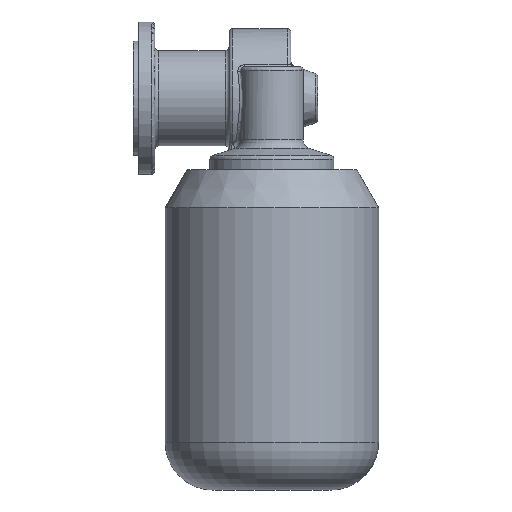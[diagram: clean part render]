
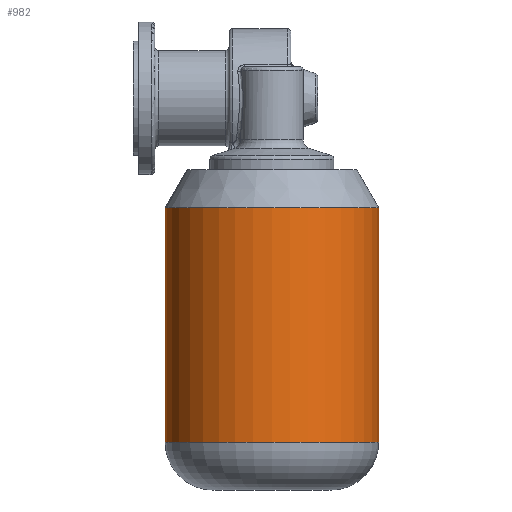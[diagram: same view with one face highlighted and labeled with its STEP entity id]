
A CAD part, front view. The second image highlights one B-rep face of the part: STEP entity #982.
In plain terms, the highlighted cylindrical face has radius 56 mm (diameter 112 mm), a partial arc.
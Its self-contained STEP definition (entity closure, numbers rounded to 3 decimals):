
#868 = VERTEX_POINT ( 'NONE', #3459 ) ;
#876 = VERTEX_POINT ( 'NONE', #3445 ) ;
#904 = EDGE_LOOP ( 'NONE', ( #905, #906, #908, #963 ) ) ;
#905 = ORIENTED_EDGE ( 'NONE', *, *, #933, .F. ) ;
#906 = ORIENTED_EDGE ( 'NONE', *, *, #907, .T. ) ;
#907 = EDGE_CURVE ( 'NONE', #868, #926, #3531, .T. ) ;
#908 = ORIENTED_EDGE ( 'NONE', *, *, #981, .T. ) ;
#926 = VERTEX_POINT ( 'NONE', #3590 ) ;
#933 = EDGE_CURVE ( 'NONE', #868, #941, #3582, .T. ) ;
#941 = VERTEX_POINT ( 'NONE', #3643 ) ;
#963 = ORIENTED_EDGE ( 'NONE', *, *, #964, .T. ) ;
#964 = EDGE_CURVE ( 'NONE', #876, #941, #3653, .T. ) ;
#981 = EDGE_CURVE ( 'NONE', #926, #876, #3683, .T. ) ;
#982 = ADVANCED_FACE ( 'NONE', ( #3745 ), #3744, .T. ) ;
#3445 = CARTESIAN_POINT ( 'NONE',  ( 0., -54.893, -20. ) ) ;
#3459 = CARTESIAN_POINT ( 'NONE',  ( 0., 57.107, -143. ) ) ;
#3527 = DIRECTION ( 'NONE',  ( 0., -1., 0. ) ) ;
#3528 = DIRECTION ( 'NONE',  ( 0., 0., 1. ) ) ;
#3529 = CARTESIAN_POINT ( 'NONE',  ( 0., 1.107, -143. ) ) ;
#3530 = AXIS2_PLACEMENT_3D ( 'NONE', #3529, #3528, #3527 ) ;
#3531 = CIRCLE ( 'NONE', #3530, 56. ) ;
#3575 = DIRECTION ( 'NONE',  ( 0., 0., 1. ) ) ;
#3576 = VECTOR ( 'NONE', #3575, 1000. ) ;
#3577 = CARTESIAN_POINT ( 'NONE',  ( 0., 57.107, -168. ) ) ;
#3582 = LINE ( 'NONE', #3577, #3576 ) ;
#3590 = CARTESIAN_POINT ( 'NONE',  ( 0., -54.893, -143. ) ) ;
#3643 = CARTESIAN_POINT ( 'NONE',  ( 0., 57.107, -20. ) ) ;
#3649 = DIRECTION ( 'NONE',  ( 0., -1., 0. ) ) ;
#3650 = DIRECTION ( 'NONE',  ( 0., 0., -1. ) ) ;
#3651 = CARTESIAN_POINT ( 'NONE',  ( 0., 1.107, -20. ) ) ;
#3652 = AXIS2_PLACEMENT_3D ( 'NONE', #3651, #3650, #3649 ) ;
#3653 = CIRCLE ( 'NONE', #3652, 56. ) ;
#3683 = LINE ( 'NONE', #3749, #3748 ) ;
#3719 = DIRECTION ( 'NONE',  ( 0., -1., 0. ) ) ;
#3720 = DIRECTION ( 'NONE',  ( 0., 0., 1. ) ) ;
#3721 = CARTESIAN_POINT ( 'NONE',  ( 0., 1.107, -168. ) ) ;
#3744 = CYLINDRICAL_SURFACE ( 'NONE', #3746, 56. ) ;
#3745 = FACE_OUTER_BOUND ( 'NONE', #904, .T. ) ;
#3746 = AXIS2_PLACEMENT_3D ( 'NONE', #3721, #3720, #3719 ) ;
#3747 = DIRECTION ( 'NONE',  ( 0., 0., 1. ) ) ;
#3748 = VECTOR ( 'NONE', #3747, 1000. ) ;
#3749 = CARTESIAN_POINT ( 'NONE',  ( 0., -54.893, -168. ) ) ;
